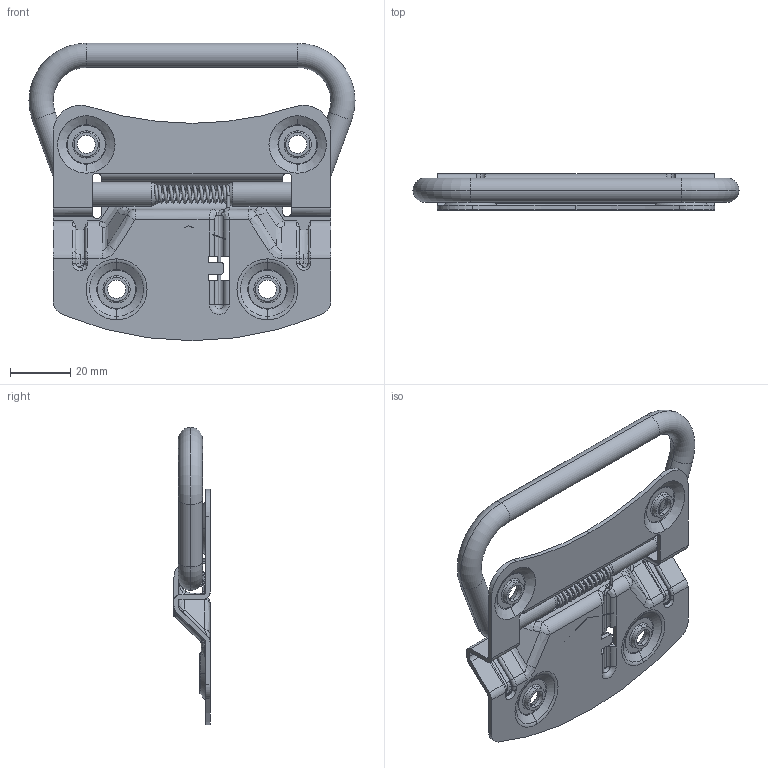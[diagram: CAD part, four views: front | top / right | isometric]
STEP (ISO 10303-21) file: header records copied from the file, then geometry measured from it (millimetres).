
FILE_DESCRIPTION (( 'STEP AP203' ), '1' );
FILE_NAME ('SK4-022-3S.STEP', '2017-06-27T06:08:45', ( 'admin' ), ( 'Microsoft' ), 'SwSTEP 2.0', 'SolidWorks 2015', '' );
FILE_SCHEMA (( 'CONFIG_CONTROL_DESIGN' ));
Length unit declared in the file: millimetre
Products named in the file (4): SK4-022-3S; SK4-022-3S 減諶; SK4-022-3S 粟銅
Assembly tree (3 placements, depth 2):
  SK4-022-3S
    SK4-022-3S
    SK4-022-3S 減諶
    SK4-022-3S 粟銅
Bounding box: 108 x 12 x 98.5 mm (x, y, z)
Volume: 23538.7 mm3; surface area: 23528.1 mm2
Topology: 3 solids, 3 shells, 502 faces, 1242 edges, 737 vertices
Faces by surface type: bspline 151, plane 151, cylinder 126, torus 53, cone 16, sphere 5
Entity records: 44485 total; most frequent: CARTESIAN_POINT 33389, ORIENTED_EDGE 2434, DIRECTION 1908, EDGE_CURVE 1217, VERTEX_POINT 736, AXIS2_PLACEMENT_3D 690, EDGE_LOOP 531, LINE 528
